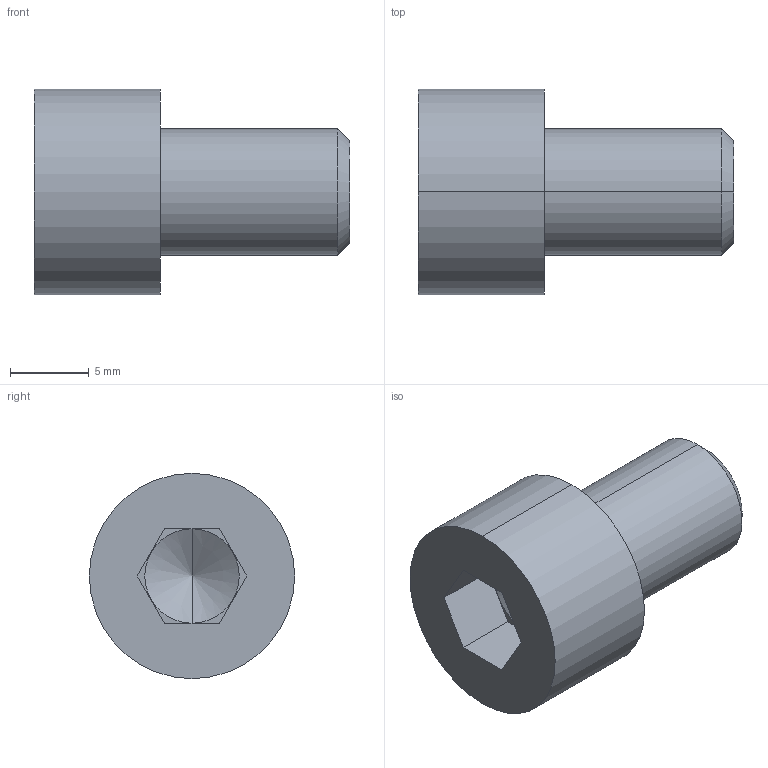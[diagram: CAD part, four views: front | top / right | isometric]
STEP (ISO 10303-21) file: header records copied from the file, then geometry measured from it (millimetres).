
FILE_DESCRIPTION (( 'STEP AP203' ), '1' );
FILE_NAME ('M8x12_DIN912.STEP', '2016-05-16T06:33:09', ( '' ), ( '' ), 'SwSTEP 2.0', 'SolidWorks 2014', '' );
FILE_SCHEMA (( 'CONFIG_CONTROL_DESIGN' ));
Length unit declared in the file: millimetre
Products named in the file (1): M8x12_DIN912
Bounding box: 20 x 13 x 13 mm (x, y, z)
Volume: 1517.3 mm3; surface area: 969.2 mm2
Topology: 1 solids, 1 shells, 18 faces, 40 edges, 25 vertices
Faces by surface type: plane 10, cone 4, cylinder 4
Entity records: 563 total; most frequent: DIRECTION 88, CARTESIAN_POINT 82, ORIENTED_EDGE 76, EDGE_CURVE 38, AXIS2_PLACEMENT_3D 31, VECTOR 26, LINE 26, VERTEX_POINT 25
